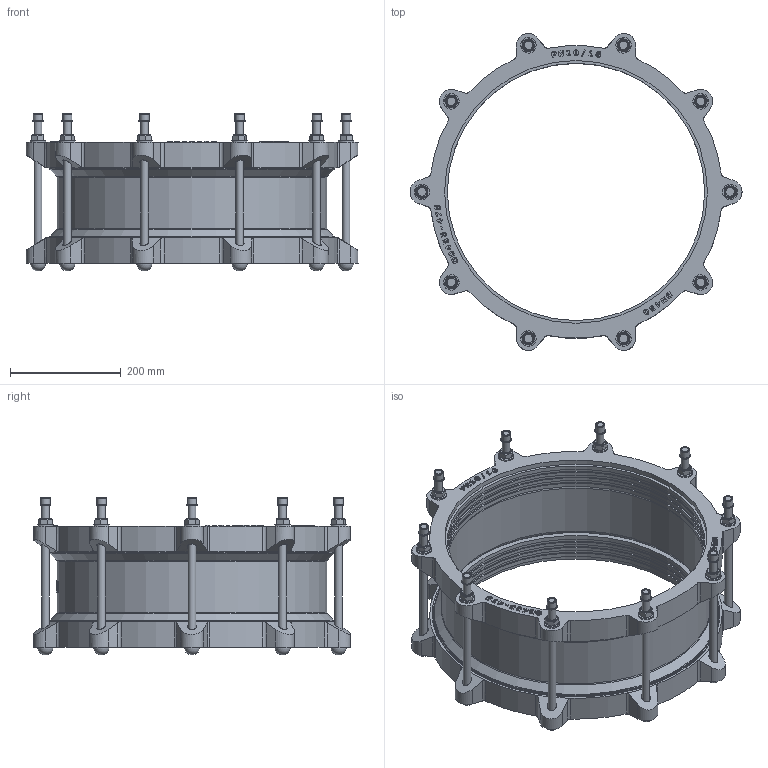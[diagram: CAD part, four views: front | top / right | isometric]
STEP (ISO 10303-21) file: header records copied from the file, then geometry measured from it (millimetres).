
FILE_DESCRIPTION(('STEP AP203'), '1');
FILE_NAME('Cîåäèíèòåëüíàÿ ìóôòà äëÿ æåñòêèõ òðóá', '', ('UNSPECIFIED'), ('UNSPECIFIED'), 'C3D Converter', 'C3D Toolkit', '');
FILE_SCHEMA(('CONFIG_CONTROL_DESIGN'));
Length unit declared in the file: millimetre
Assembly tree (45 placements, depth 2):
  (unnamed)
    (unnamed)
    (unnamed)  x10
    (unnamed)  x10
    (unnamed)  x10
    (unnamed)  x10
    (unnamed)
    (unnamed)
    (unnamed)  x2
Bounding box: 600 x 572.73 x 285.4 mm (x, y, z)
Volume: 7329149.8 mm3; surface area: 1691414.4 mm2
Topology: 49 solids, 49 shells, 1037 faces, 2506 edges, 1636 vertices
Faces by surface type: plane 442, extrusion 274, cylinder 207, cone 76, torus 28, sphere 10
Full cylindrical faces by diameter (mm): 14 x30, 15 x10, 16 x20, 16.8 x10, 19.6 x10, 23.29 x1, 28 x10, 465 x8, 470 x6, 475 x3, 481 x2, 487 x3, 514 x2, 517 x4
Entity records: 36516 total; most frequent: CARTESIAN_POINT 14098, ORIENTED_EDGE 3784, DIRECTION 2740, EDGE_CURVE 1892, VERTEX_POINT 1290, VECTOR 1206, B_SPLINE_CURVE_WITH_KNOTS 956, LINE 932
